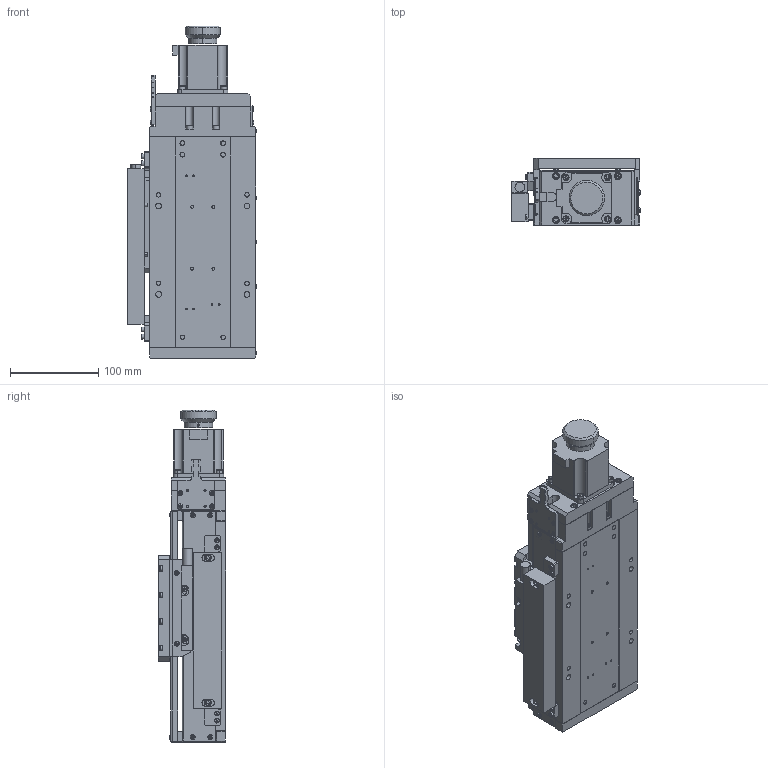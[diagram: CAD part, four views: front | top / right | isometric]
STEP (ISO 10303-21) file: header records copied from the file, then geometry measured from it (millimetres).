
FILE_DESCRIPTION (( 'STEP AP203' ), '1' );
FILE_NAME ('KA050-C.step', '2019-05-06T07:50:19', ( '' ), ( '' ), 'SwSTEP 2.0', 'SolidWorks 2017', '' );
FILE_SCHEMA (( 'CONFIG_CONTROL_DESIGN' ));
Length unit declared in the file: millimetre
Products named in the file (1): KA050-C
Bounding box: 145.65 x 76.5 x 375.5 mm (x, y, z)
Surface area: 285064.1 mm2 (no closed solid volume)
Topology: 0 solids, 96 shells, 1167 faces, 3822 edges, 2663 vertices
Faces by surface type: plane 747, cylinder 270, torus 60, sphere 46, cone 44
Entity records: 41706 total; most frequent: CARTESIAN_POINT 7696, DIRECTION 7299, ORIENTED_EDGE 6063, EDGE_CURVE 3782, VERTEX_POINT 2663, VECTOR 2591, LINE 2591, AXIS2_PLACEMENT_3D 2354
